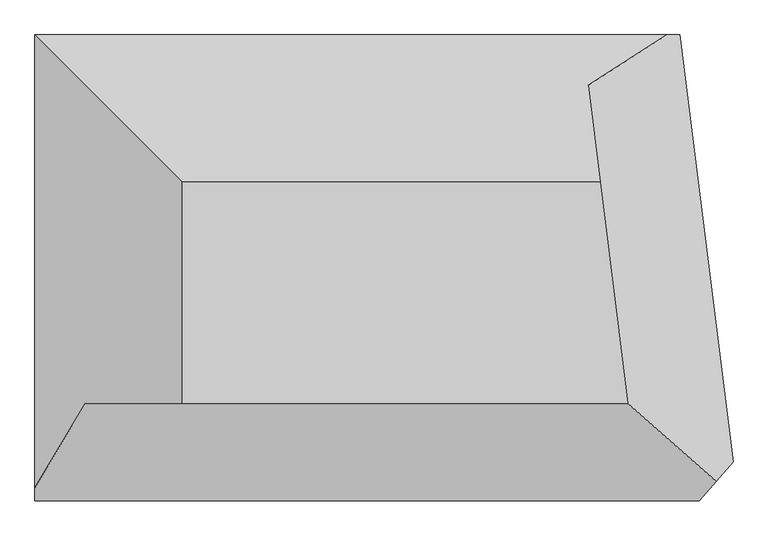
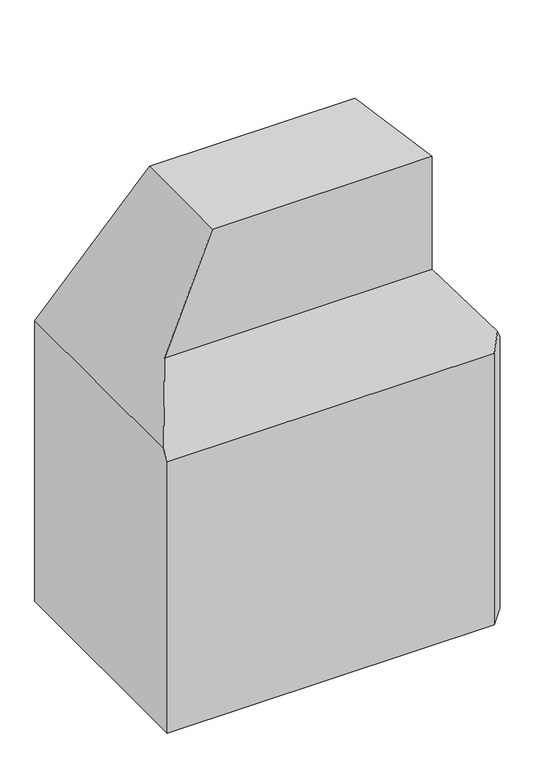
"""IFC4 building model written with IfcOpenShell, lengths in millimetres: proxy geometry, 斜線モデル : 斜線モデル."""

import ifcopenshell
import ifcopenshell.guid

model = None  # the IFC model being written
_history = None  # IfcOwnerHistory: only IFC2X3 demands one
_inside = {}  # id of a spatial element -> (the spatial element, [elements in it])
_under = {}  # id of a project, library or spatial element -> (it, [spatial elements below it])
_declared = {}  # id of a project -> (the project, [libraries it declares])
_typed = {}  # id of a type object -> (the type object, [elements of that type])
_made_of = {}  # id of a material, layer set ... -> (it, [elements and type objects made of it])


def new_model(schema):
    """Start an empty IFC model of exactly this schema.

    Asked for "IFC4X3", IfcOpenShell would pick the latest addendum, in which some entities
    have other attributes; the version numbers below select the first issue.
    IFC2X3 requires an IfcOwnerHistory on every rooted entity: one is made here for all.
    """
    global model, _history
    if schema == "IFC4X3":
        model = ifcopenshell.file(schema_version=(4, 3, 0, 0))
    else:
        model = ifcopenshell.file(schema=schema)
    _inside.clear()
    _under.clear()
    _declared.clear()
    _typed.clear()
    _made_of.clear()
    _history = None
    if model.schema == "IFC2X3":
        org = make("IfcOrganization", Name="unknown")
        user = make(
            "IfcPersonAndOrganization",
            ThePerson=make("IfcPerson", FamilyName="unknown"),
            TheOrganization=org,
        )
        app = make(
            "IfcApplication",
            ApplicationDeveloper=org,
            Version="unknown",
            ApplicationFullName="unknown",
            ApplicationIdentifier="unknown",
        )
        _history = make(
            "IfcOwnerHistory",
            OwningUser=user,
            OwningApplication=app,
            ChangeAction="ADDED",
            CreationDate=0,
        )
    return model


def make(cls, **values):
    """One entity of the class cls with the attributes given. An attribute that is None is left unset."""
    return model.create_entity(
        cls, **{name: value for name, value in values.items() if value is not None}
    )


def rooted(cls, **values):
    """An entity with a GlobalId (a new one), such as an element, a storey or a relation."""
    return make(cls, GlobalId=ifcopenshell.guid.new(), OwnerHistory=_history, **values)


def si_unit(unit_type, name, prefix=None):
    """IfcSIUnit, for example si_unit("LENGTHUNIT", "METRE", prefix="MILLI")."""
    return make("IfcSIUnit", UnitType=unit_type, Prefix=prefix, Name=name)


def assignment(units):
    """IfcUnitAssignment: the units of a project."""
    return None if units is None else make("IfcUnitAssignment", Units=units)


def point(xyz):
    """IfcCartesianPoint."""
    return None if xyz is None else make("IfcCartesianPoint", Coordinates=xyz)


def direction(xyz):
    """IfcDirection."""
    return None if xyz is None else make("IfcDirection", DirectionRatios=xyz)


def frame(location, z_axis=None, x_axis=None):
    """IfcAxis2Placement3D, a coordinate frame: its origin and axes. An axis left out is left unset."""
    return make(
        "IfcAxis2Placement3D",
        Location=point(location),
        Axis=direction(z_axis),
        RefDirection=direction(x_axis),
    )


def origin():
    """The frame at (0, 0, 0) with its axes left unset."""
    return frame((0.0, 0.0, 0.0))


def place(relative_to, where):
    """IfcLocalPlacement: puts the frame where relative to a parent placement (None: the world)."""
    return make(
        "IfcLocalPlacement", PlacementRelTo=relative_to, RelativePlacement=where
    )


def context(
    kind, dimensions, precision=None, world=None, true_north=None, identifier=None
):
    """IfcGeometricRepresentationContext, for example the 3D "Model" context."""
    return make(
        "IfcGeometricRepresentationContext",
        ContextIdentifier=identifier,
        ContextType=kind,
        CoordinateSpaceDimension=dimensions,
        Precision=precision,
        WorldCoordinateSystem=world,
        TrueNorth=true_north,
    )


def project(units=None, contexts=None):
    """IfcProject with its units and contexts."""
    return rooted(
        "IfcProject",
        Name="project",
        RepresentationContexts=contexts,
        UnitsInContext=assignment(units),
    )


def spatial(cls, under=None, at=None, **own):
    """A site, building, storey or space (cls), placed at a placement, below another one or the project."""
    s = rooted(cls, ObjectPlacement=at, **own)
    if under is not None:
        _under.setdefault(under.id(), (under, []))[1].append(s)
    return s


def faces_of(points, faces, orient=None, outer=None):
    """IfcFace entities. A face is a list of loops; a loop is a list of indices into points, from 0.

    orient and outer hold one flag for each loop. By default every Orientation is true, the
    first loop of a face is its IfcFaceOuterBound and the others are IfcFaceBound.
    """
    made = []
    for i, loops in enumerate(faces):
        bounds = []
        for j, loop in enumerate(loops):
            is_outer = j == 0 if outer is None else outer[i][j]
            bounds.append(
                make(
                    "IfcFaceOuterBound" if is_outer else "IfcFaceBound",
                    Bound=make("IfcPolyLoop", Polygon=[points[k] for k in loop]),
                    Orientation=True if orient is None else orient[i][j],
                )
            )
        made.append(make("IfcFace", Bounds=bounds))
    return made


def faceted_brep(points, faces, orient=None, outer=None, voids=None):
    """IfcFacetedBrep: a solid bounded by flat faces; with voids (closed shells), ...WithVoids."""
    shared = [point(p) for p in points]
    hull = make("IfcClosedShell", CfsFaces=faces_of(shared, faces, orient, outer))
    if voids is None:
        return make("IfcFacetedBrep", Outer=hull)
    return make(
        "IfcFacetedBrepWithVoids",
        Outer=hull,
        Voids=[
            make(cls, CfsFaces=faces_of(shared, fs, o, b)) for cls, fs, o, b in voids
        ],
    )


def shape(context_of_items, identifier, shape_type, items):
    """IfcShapeRepresentation: the items that make up one representation, for example the "Body"."""
    return make(
        "IfcShapeRepresentation",
        ContextOfItems=context_of_items,
        RepresentationIdentifier=identifier,
        RepresentationType=shape_type,
        Items=items,
    )


def source(mapping_origin, context_of_items, identifier, shape_type, items):
    """IfcRepresentationMap: a shape defined once, which mapped items show again and again."""
    return make(
        "IfcRepresentationMap",
        MappingOrigin=mapping_origin,
        MappedRepresentation=shape(context_of_items, identifier, shape_type, items),
    )


def transform(
    local_origin,
    x_axis=None,
    y_axis=None,
    z_axis=None,
    scale=None,
    scale2=None,
    scale3=None,
    uniform=True,
):
    """IfcCartesianTransformationOperator3D, or its non-uniform kind. x_axis, y_axis, z_axis: its Axis1, 2, 3."""
    if uniform:
        return make(
            "IfcCartesianTransformationOperator3D",
            Axis1=direction(x_axis),
            Axis2=direction(y_axis),
            LocalOrigin=point(local_origin),
            Scale=scale,
            Axis3=direction(z_axis),
        )
    return make(
        "IfcCartesianTransformationOperator3DnonUniform",
        Axis1=direction(x_axis),
        Axis2=direction(y_axis),
        LocalOrigin=point(local_origin),
        Scale=scale,
        Axis3=direction(z_axis),
        Scale2=scale2,
        Scale3=scale3,
    )


def mapped(mapping_source, mapping_target):
    """IfcMappedItem: shows the shape of a source again, moved by a transform."""
    return make(
        "IfcMappedItem", MappingSource=mapping_source, MappingTarget=mapping_target
    )


def made_of(thing, what):
    """Note that an element or type object is made of a material, layer set ...; save() writes the relation."""
    if what is not None:
        _made_of.setdefault(what.id(), (what, []))[1].append(thing)
    return thing


def element(
    cls,
    number,
    at=None,
    inside=None,
    cuts=None,
    type_object=None,
    material=None,
    context=None,
    identifier="Body",
    shape_type=None,
    held_by="IfcProductDefinitionShape",
    body=None,
    shapes=None,
    **own,
):
    """One element of the class cls, such as IfcWall. Its Tag is "e" and its number.

    at: its placement. inside: the storey or other place that contains it. cuts: it is an
    opening in that element (IfcRelVoidsElement). A single representation is given by context,
    identifier, shape_type and body (its items); several are given by shapes. held_by: the class
    of the entity that holds the representations. save() writes the other relations.
    """
    e = rooted(cls, Tag="e%d" % number, ObjectPlacement=at, **own)
    if body is not None:
        shapes = [shape(context, identifier, shape_type, body)]
    if shapes is not None:
        e.Representation = make(held_by, Representations=shapes)
    if inside is not None:
        _inside.setdefault(inside.id(), (inside, []))[1].append(e)
    if cuts is not None:
        rooted(
            "IfcRelVoidsElement", RelatingBuildingElement=cuts, RelatedOpeningElement=e
        )
    if type_object is not None:
        _typed.setdefault(type_object.id(), (type_object, []))[1].append(e)
    return made_of(e, material)


def aggregate(whole, parts):
    """IfcRelAggregates: a whole, such as a stair, and the parts it consists of."""
    return rooted("IfcRelAggregates", RelatingObject=whole, RelatedObjects=parts)


def save(model, path):
    """Write the relations noted so far, then the file.

    IfcRelAggregates (storeys below a building ...), IfcRelContainedInSpatialStructure (elements
    in a storey), IfcRelDefinesByType, IfcRelAssociatesMaterial and IfcRelDeclares: one each for
    every whole, place, type object, material and project.
    """
    for whole, parts in _under.values():
        aggregate(whole, parts)
    for where, things in _inside.values():
        rooted(
            "IfcRelContainedInSpatialStructure",
            RelatedElements=things,
            RelatingStructure=where,
        )
    for kind, things in _typed.values():
        rooted("IfcRelDefinesByType", RelatedObjects=things, RelatingType=kind)
    for what, things in _made_of.values():
        rooted("IfcRelAssociatesMaterial", RelatedObjects=things, RelatingMaterial=what)
    for by, libraries in _declared.values():
        rooted("IfcRelDeclares", RelatingContext=by, RelatedDefinitions=libraries)
    model.write(path)


def generic_models_d69f2043(model_context):
    return source(origin(), model_context, "Body", "Brep", [
        faceted_brep([(-22295.9784025, -1300.3135097, 50000.0), (642.8270434, -1300.3135097, 50000.0), (-783.8580386, 10099.6868987, 50000.0), (-22295.9784025, 10099.6868987, 50000.0), (-29895.9784025, -6300.3135097, 0.0), (-29895.9784025, 17699.6868987, 0.0), (3304.0214212, 17699.6868987, 0.0), (6057.2732352, -4300.3131013, 0.0), (4304.0214212, -6300.3135097, 0.0), (4304.0214212, -6300.3135097, 30000.0), (-29895.9784025, -6300.3135097, 30000.0), (6057.2732352, -4300.3131013, 30000.0), (5178.0181909, -5303.3124615, 31495.5015723), (3304.0214212, 17699.6868987, 30000.0), (-29895.9784025, 17699.6868987, 31000.0), (2632.1543794, 17699.6868987, 31000.0), (-29895.9784025, -5633.646843, 31000.0), (-1409.5970872, 15099.6868987, 37500.0), (642.8270434, -1300.3135097, 37500.0), (-27295.9784025, -1300.3135097, 37500.0)], [[[0, 1, 2, 3]], [[4, 5, 6, 7, 8]], [[4, 8, 9, 10]], [[8, 7, 11, 12, 9]], [[7, 6, 13, 11]], [[6, 5, 14, 15, 13]], [[5, 4, 10, 16, 14]], [[11, 13, 15, 17, 18, 12]], [[1, 18, 17, 2]], [[10, 9, 12, 18, 19, 16]], [[18, 1, 0, 19]], [[14, 16, 19, 0, 3]], [[3, 2, 17, 15, 14]]]),
    ])


if __name__ == "__main__":
    model = new_model("IFC4")
    model_context = context("Model", 3, world=origin())
    ifc_project = project(units=[si_unit("LENGTHUNIT", "METRE", prefix="MILLI")], contexts=[model_context])
    site = spatial("IfcSite", under=ifc_project)
    building = spatial("IfcBuilding", under=site)
    placement = place(None, origin())
    generic_models_shape = generic_models_d69f2043(model_context)
    element("IfcBuildingElementProxy", 1, Name="斜線モデル : 斜線モデル", ObjectType="斜線モデル : 斜線モデル", at=placement, inside=building, context=model_context, shape_type="MappedRepresentation", body=[
        mapped(generic_models_shape, transform((0.0, 0.0, 0.0), x_axis=(1.0, 0.0, 0.0), y_axis=(0.0, 1.0, 0.0), z_axis=(0.0, 0.0, 1.0))),
    ])
    save(model, "model.ifc")
